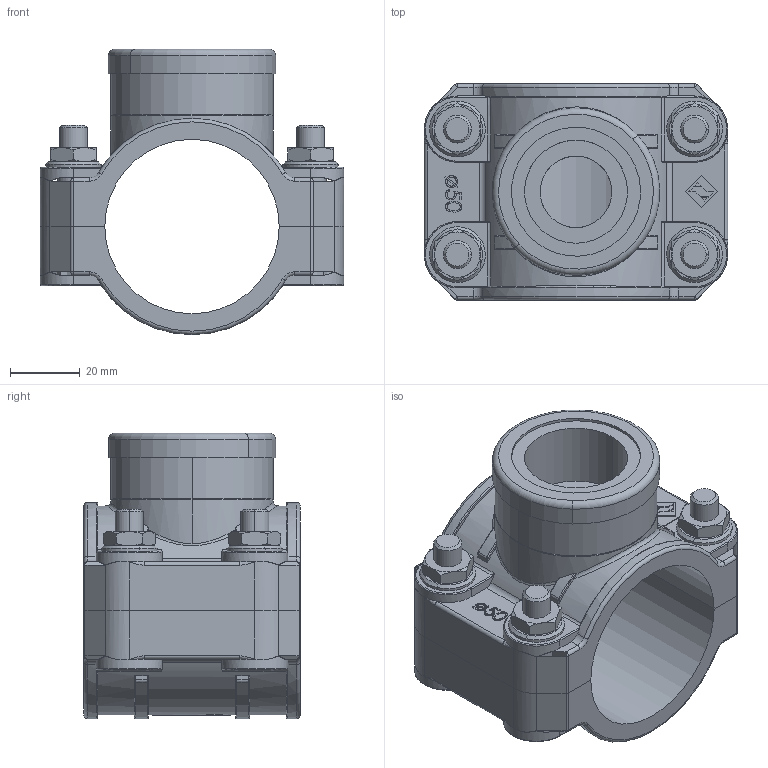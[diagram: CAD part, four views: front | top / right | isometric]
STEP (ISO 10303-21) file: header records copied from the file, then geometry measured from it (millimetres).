
FILE_DESCRIPTION (( 'STEP AP214' ), '1' );
FILE_NAME ('xC - 727627043 - Staffa 50-1''''.STEP', '2022-09-14T08:17:49', ( '' ), ( '' ), 'SwSTEP 2.0', 'SolidWorks 2022', '' );
FILE_SCHEMA (( 'AUTOMOTIVE_DESIGN' ));
Length unit declared in the file: millimetre
Products named in the file (1): xC - 727627043 - Staffa 50-1''''
Bounding box: 87 x 62 x 81.8 mm (x, y, z)
Volume: 131093.1 mm3; surface area: 55634.5 mm2
Topology: 15 solids, 15 shells, 812 faces, 1974 edges, 1212 vertices
Faces by surface type: plane 320, cylinder 210, bspline 114, cone 104, torus 56, sphere 8
Entity records: 39310 total; most frequent: CARTESIAN_POINT 12286, ORIENTED_EDGE 3916, DIRECTION 3427, EDGE_CURVE 1958, AXIS2_PLACEMENT_3D 1308, VERTEX_POINT 1212, EDGE_LOOP 884, UNCERTAINTY_MEASURE_WITH_UNIT 829
